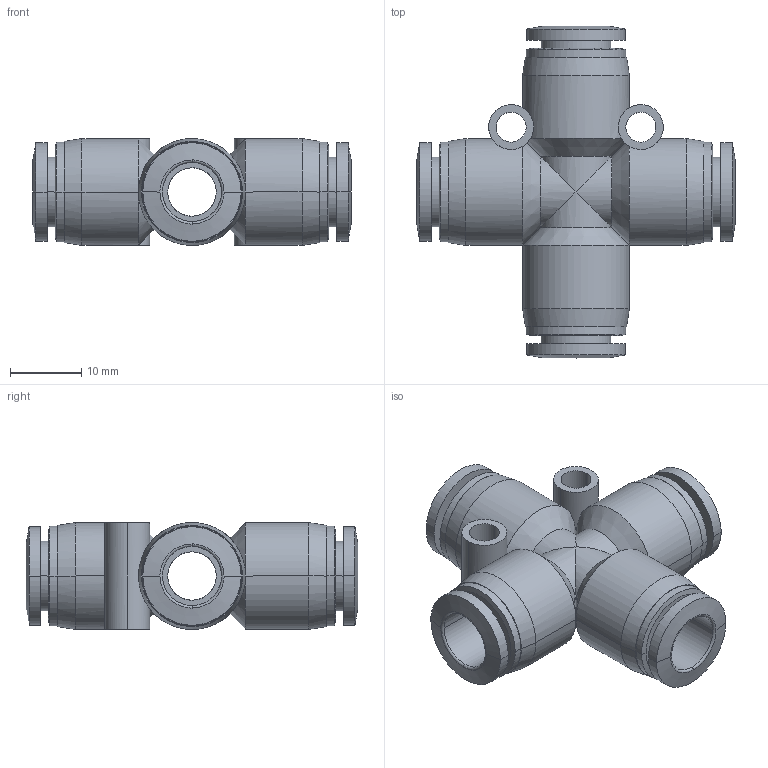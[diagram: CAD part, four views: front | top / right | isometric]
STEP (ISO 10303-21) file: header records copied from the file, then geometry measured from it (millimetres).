
FILE_DESCRIPTION (( 'STEP AP203' ), '1' );
FILE_NAME ('FX08-00.STEP', '2020-05-12T15:25:43', ( '' ), ( '' ), 'SwSTEP 2.0', 'SolidWorks 2019', '' );
FILE_SCHEMA (( 'CONFIG_CONTROL_DESIGN' ));
Length unit declared in the file: millimetre
Products named in the file (1): FX08-00
Bounding box: 44.7 x 46.6 x 15 mm (x, y, z)
Surface area: 7356.9 mm2 (no closed solid volume)
Topology: 0 solids, 1 shells, 124 faces, 294 edges, 174 vertices
Faces by surface type: cylinder 64, cone 32, plane 20, torus 8
Entity records: 6850 total; most frequent: CARTESIAN_POINT 4336, ORIENTED_EDGE 572, DIRECTION 348, EDGE_CURVE 294, B_SPLINE_CURVE_WITH_KNOTS 204, VERTEX_POINT 174, EDGE_LOOP 144, AXIS2_PLACEMENT_3D 133
